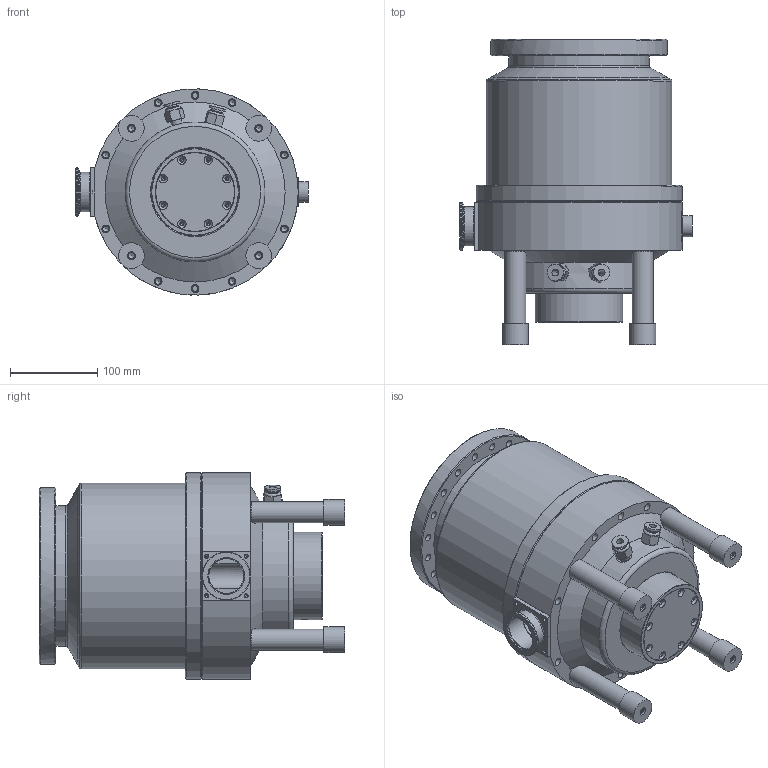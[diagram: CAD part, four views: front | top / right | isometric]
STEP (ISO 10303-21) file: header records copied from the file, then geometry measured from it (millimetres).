
FILE_DESCRIPTION (( 'STEP AP214' ), '1' );
FILE_NAME ('JTFB-650阨濮絮諳.STEP', '2025-06-30T01:43:19', ( '' ), ( '' ), 'SwSTEP 2.0', 'SolidWorks 2023', '' );
FILE_SCHEMA (( 'AUTOMOTIVE_DESIGN' ));
Length unit declared in the file: millimetre
Products named in the file (14): 水嘴GDJK; JTFB1300Z-02M-0; SJJTB-600-14-02SLDK; 600胶套GDJK; 电源接头GDJK; SJJTB-650JZ-01-01-01ASLDK; JTFB-650水冷刀口; SJJTB-600-0222; JTFB1300Z-04A-0; JTFB650Z-04A-22-11-5; JTFB600D-14-01-01SLDK; SJJTB-600-15GDJK; SJJTB-650DZ-01-00ASLDK; SJJTB-650DZ-01-01-00ＡSLDK
Assembly tree (20 placements, depth 4):
  JTFB-650水冷刀口
    SJJTB-600-0222
    SJJTB-600-15GDJK  x4
    600胶套GDJK  x4
    电源接头GDJK
    水嘴GDJK  x2
    JTFB1300Z-02M-0
    JTFB1300Z-04A-0
    JTFB650Z-04A-22-11-5
    SJJTB-650DZ-01-00ASLDK
      SJJTB-650DZ-01-01-00ＡSLDK
        JTFB600D-14-01-01SLDK
        SJJTB-650JZ-01-01-01ASLDK
      SJJTB-600-14-02SLDK
Bounding box: 266 x 349.5 x 235.88 mm (x, y, z)
Volume: 4096811.4 mm3; surface area: 753173.6 mm2
Topology: 18 solids, 18 shells, 521 faces, 1199 edges, 772 vertices
Faces by surface type: cylinder 218, plane 167, cone 111, torus 20, sphere 5
Full cylindrical faces by diameter (mm): 2 x3, 2.5 x7, 3 x4, 3.3 x12, 4 x3, 4.5 x12, 5 x8, 6.1 x1, 6.2 x8, 6.8 x23, 7.864 x2, 8 x2, 8.4 x20, 9 x14, 11.8 x2, 12 x2, 14.5 x2, 16 x1, 18 x2, 19 x3, 21 x1, 23 x2, 23.5 x4, 24 x5, 25 x1, 28 x1, 28.3 x2, 29.5 x4, 32 x1, 34 x1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
Entity records: 12237 total; most frequent: CARTESIAN_POINT 2964, DIRECTION 1979, ORIENTED_EDGE 1270, AXIS2_PLACEMENT_3D 929, EDGE_LOOP 914, FACE_OUTER_BOUND 636, EDGE_CURVE 635, VERTEX_POINT 553
